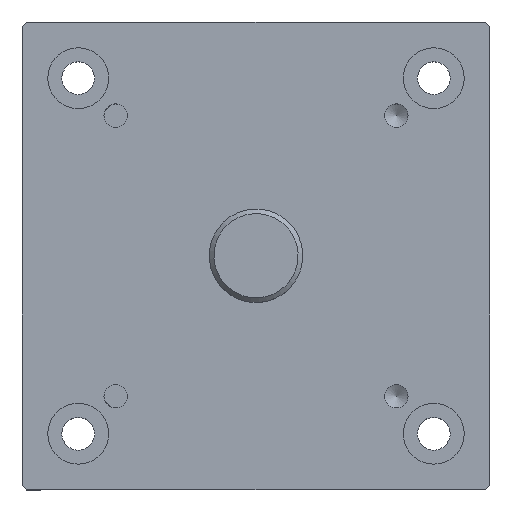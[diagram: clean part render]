
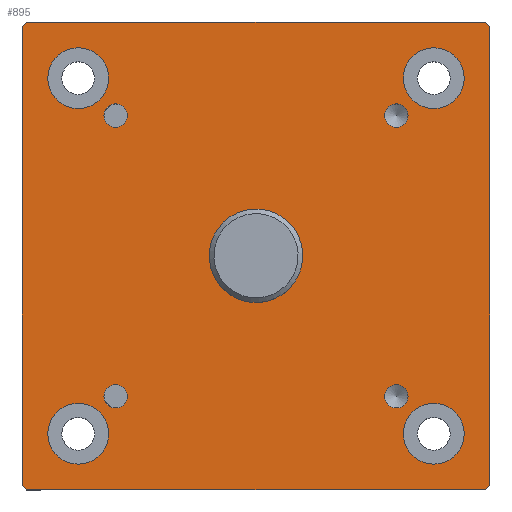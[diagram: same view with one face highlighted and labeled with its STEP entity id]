
A CAD part, top view. The second image highlights one B-rep face of the part: STEP entity #895.
In plain terms, the highlighted planar face has unit normal (0, 0, 1).
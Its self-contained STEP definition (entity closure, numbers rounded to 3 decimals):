
#54=LINE('',#1430,#108);
#58=LINE('',#1437,#112);
#66=LINE('',#1463,#120);
#68=LINE('',#1467,#122);
#69=LINE('',#1471,#123);
#72=LINE('',#1475,#126);
#74=LINE('',#1479,#128);
#75=LINE('',#1481,#129);
#108=VECTOR('',#1163,10.);
#112=VECTOR('',#1169,10.);
#120=VECTOR('',#1191,10.);
#122=VECTOR('',#1195,10.);
#123=VECTOR('',#1198,10.);
#126=VECTOR('',#1203,10.);
#128=VECTOR('',#1207,10.);
#129=VECTOR('',#1210,10.);
#166=FACE_BOUND('',#275,.T.);
#167=FACE_BOUND('',#276,.T.);
#168=FACE_BOUND('',#277,.T.);
#169=FACE_BOUND('',#278,.T.);
#170=FACE_BOUND('',#279,.T.);
#171=FACE_BOUND('',#280,.T.);
#172=FACE_BOUND('',#281,.T.);
#173=FACE_BOUND('',#282,.T.);
#174=FACE_BOUND('',#283,.T.);
#208=FACE_OUTER_BOUND('',#274,.T.);
#274=EDGE_LOOP('',(#668,#669,#670,#671,#672,#673,#674,#675));
#275=EDGE_LOOP('',(#676));
#276=EDGE_LOOP('',(#677));
#277=EDGE_LOOP('',(#678));
#278=EDGE_LOOP('',(#679));
#279=EDGE_LOOP('',(#680));
#280=EDGE_LOOP('',(#681));
#281=EDGE_LOOP('',(#682));
#282=EDGE_LOOP('',(#683));
#283=EDGE_LOOP('',(#684));
#325=CIRCLE('',#959,3.);
#347=CIRCLE('',#1002,1.25);
#348=CIRCLE('',#1003,1.25);
#349=CIRCLE('',#1004,1.25);
#350=CIRCLE('',#1005,1.25);
#351=CIRCLE('',#1006,3.25);
#352=CIRCLE('',#1007,3.25);
#353=CIRCLE('',#1008,3.25);
#354=CIRCLE('',#1009,3.25);
#383=VERTEX_POINT('',#1368);
#402=VERTEX_POINT('',#1427);
#403=VERTEX_POINT('',#1429);
#405=VERTEX_POINT('',#1435);
#416=VERTEX_POINT('',#1461);
#417=VERTEX_POINT('',#1465);
#418=VERTEX_POINT('',#1469);
#419=VERTEX_POINT('',#1470);
#420=VERTEX_POINT('',#1477);
#421=VERTEX_POINT('',#1482);
#422=VERTEX_POINT('',#1484);
#423=VERTEX_POINT('',#1486);
#424=VERTEX_POINT('',#1488);
#425=VERTEX_POINT('',#1490);
#426=VERTEX_POINT('',#1492);
#427=VERTEX_POINT('',#1494);
#428=VERTEX_POINT('',#1496);
#461=EDGE_CURVE('',#383,#383,#325,.T.);
#489=EDGE_CURVE('',#402,#403,#54,.T.);
#493=EDGE_CURVE('',#402,#405,#58,.T.);
#506=EDGE_CURVE('',#416,#405,#66,.T.);
#508=EDGE_CURVE('',#416,#417,#68,.T.);
#509=EDGE_CURVE('',#418,#419,#69,.T.);
#512=EDGE_CURVE('',#418,#403,#72,.T.);
#514=EDGE_CURVE('',#420,#417,#74,.T.);
#515=EDGE_CURVE('',#420,#419,#75,.T.);
#516=EDGE_CURVE('',#421,#421,#347,.T.);
#517=EDGE_CURVE('',#422,#422,#348,.T.);
#518=EDGE_CURVE('',#423,#423,#349,.T.);
#519=EDGE_CURVE('',#424,#424,#350,.T.);
#520=EDGE_CURVE('',#425,#425,#351,.T.);
#521=EDGE_CURVE('',#426,#426,#352,.T.);
#522=EDGE_CURVE('',#427,#427,#353,.T.);
#523=EDGE_CURVE('',#428,#428,#354,.T.);
#668=ORIENTED_EDGE('',*,*,#489,.F.);
#669=ORIENTED_EDGE('',*,*,#493,.T.);
#670=ORIENTED_EDGE('',*,*,#506,.F.);
#671=ORIENTED_EDGE('',*,*,#508,.T.);
#672=ORIENTED_EDGE('',*,*,#514,.F.);
#673=ORIENTED_EDGE('',*,*,#515,.T.);
#674=ORIENTED_EDGE('',*,*,#509,.F.);
#675=ORIENTED_EDGE('',*,*,#512,.T.);
#676=ORIENTED_EDGE('',*,*,#461,.T.);
#677=ORIENTED_EDGE('',*,*,#516,.T.);
#678=ORIENTED_EDGE('',*,*,#517,.T.);
#679=ORIENTED_EDGE('',*,*,#518,.T.);
#680=ORIENTED_EDGE('',*,*,#519,.T.);
#681=ORIENTED_EDGE('',*,*,#520,.T.);
#682=ORIENTED_EDGE('',*,*,#521,.T.);
#683=ORIENTED_EDGE('',*,*,#522,.T.);
#684=ORIENTED_EDGE('',*,*,#523,.T.);
#802=PLANE('',#1001);
#895=ADVANCED_FACE('',(#208,#166,#167,#168,#169,#170,#171,#172,#173,#174),
#802,.T.);
#959=AXIS2_PLACEMENT_3D('',#1369,#1092,#1093);
#1001=AXIS2_PLACEMENT_3D('',#1480,#1208,#1209);
#1002=AXIS2_PLACEMENT_3D('',#1483,#1211,#1212);
#1003=AXIS2_PLACEMENT_3D('',#1485,#1213,#1214);
#1004=AXIS2_PLACEMENT_3D('',#1487,#1215,#1216);
#1005=AXIS2_PLACEMENT_3D('',#1489,#1217,#1218);
#1006=AXIS2_PLACEMENT_3D('',#1491,#1219,#1220);
#1007=AXIS2_PLACEMENT_3D('',#1493,#1221,#1222);
#1008=AXIS2_PLACEMENT_3D('',#1495,#1223,#1224);
#1009=AXIS2_PLACEMENT_3D('',#1497,#1225,#1226);
#1092=DIRECTION('center_axis',(0.,0.,
-1.));
#1093=DIRECTION('ref_axis',(-0.066,0.998,0.));
#1163=DIRECTION('',(0.707,-0.707,0.));
#1169=DIRECTION('',(-1.,0.,0.));
#1191=DIRECTION('',(0.707,0.707,0.));
#1195=DIRECTION('',(0.,-1.,0.));
#1198=DIRECTION('',(-0.707,-0.707,0.));
#1203=DIRECTION('',(0.,1.,0.));
#1207=DIRECTION('',(-0.707,0.707,0.));
#1208=DIRECTION('center_axis',(0.,0.,
1.));
#1209=DIRECTION('ref_axis',(0.,1.,0.));
#1210=DIRECTION('',(1.,0.,0.));
#1211=DIRECTION('center_axis',(0.,0.,
-1.));
#1212=DIRECTION('ref_axis',(-1.,0.,0.));
#1213=DIRECTION('center_axis',(0.,0.,
-1.));
#1214=DIRECTION('ref_axis',(-1.,0.,0.));
#1215=DIRECTION('center_axis',(0.,0.,
-1.));
#1216=DIRECTION('ref_axis',(-1.,0.,0.));
#1217=DIRECTION('center_axis',(0.,0.,
-1.));
#1218=DIRECTION('ref_axis',(-1.,0.,0.));
#1219=DIRECTION('center_axis',(0.,0.,
-1.));
#1220=DIRECTION('ref_axis',(-1.,0.,0.));
#1221=DIRECTION('center_axis',(0.,0.,
-1.));
#1222=DIRECTION('ref_axis',(-1.,0.,0.));
#1223=DIRECTION('center_axis',(0.,0.,
-1.));
#1224=DIRECTION('ref_axis',(-1.,0.,0.));
#1225=DIRECTION('center_axis',(0.,0.,
-1.));
#1226=DIRECTION('ref_axis',(-1.,0.,0.));
#1368=CARTESIAN_POINT('',(-1.028,-2.905,3.815));
#1369=CARTESIAN_POINT('Origin',(-1.227,0.088,3.815));
#1427=CARTESIAN_POINT('',(23.273,25.088,3.815));
#1429=CARTESIAN_POINT('',(23.773,24.588,3.815));
#1430=CARTESIAN_POINT('',(23.523,24.838,3.815));
#1435=CARTESIAN_POINT('',(-25.727,25.088,3.815));
#1437=CARTESIAN_POINT('',(-26.227,25.088,3.815));
#1461=CARTESIAN_POINT('',(-26.227,24.588,3.815));
#1463=CARTESIAN_POINT('',(-25.977,24.838,3.815));
#1465=CARTESIAN_POINT('',(-26.227,-24.412,3.815));
#1467=CARTESIAN_POINT('',(-26.227,-24.912,3.815));
#1469=CARTESIAN_POINT('',(23.773,-24.412,3.815));
#1470=CARTESIAN_POINT('',(23.273,-24.912,3.815));
#1471=CARTESIAN_POINT('',(23.523,-24.662,3.815));
#1475=CARTESIAN_POINT('',(23.773,25.088,3.815));
#1477=CARTESIAN_POINT('',(-25.727,-24.912,3.815));
#1479=CARTESIAN_POINT('',(-25.977,-24.662,3.815));
#1480=CARTESIAN_POINT('Origin',(-1.227,0.088,3.815));
#1481=CARTESIAN_POINT('',(23.773,-24.912,3.815));
#1482=CARTESIAN_POINT('',(15.023,15.088,3.815));
#1483=CARTESIAN_POINT('Origin',(13.773,15.088,3.815));
#1484=CARTESIAN_POINT('',(-14.977,-14.912,3.815));
#1485=CARTESIAN_POINT('Origin',(-16.227,-14.912,3.815));
#1486=CARTESIAN_POINT('',(15.023,-14.912,3.815));
#1487=CARTESIAN_POINT('Origin',(13.773,-14.912,3.815));
#1488=CARTESIAN_POINT('',(-14.977,15.088,3.815));
#1489=CARTESIAN_POINT('Origin',(-16.227,15.088,3.815));
#1490=CARTESIAN_POINT('',(-16.977,19.088,3.815));
#1491=CARTESIAN_POINT('Origin',(-20.227,19.088,3.815));
#1492=CARTESIAN_POINT('',(-16.977,-18.912,3.815));
#1493=CARTESIAN_POINT('Origin',(-20.227,-18.912,3.815));
#1494=CARTESIAN_POINT('',(21.023,-18.912,3.815));
#1495=CARTESIAN_POINT('Origin',(17.773,-18.912,3.815));
#1496=CARTESIAN_POINT('',(21.023,19.088,3.815));
#1497=CARTESIAN_POINT('Origin',(17.773,19.088,3.815));
